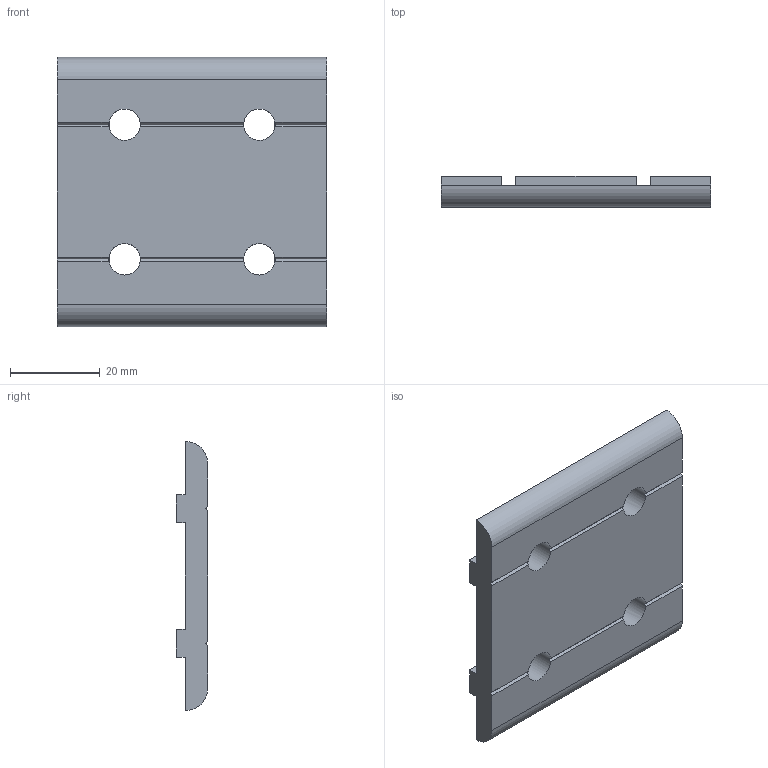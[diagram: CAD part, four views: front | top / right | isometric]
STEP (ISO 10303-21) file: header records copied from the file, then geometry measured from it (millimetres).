
FILE_DESCRIPTION(/* description */ ('Unknown'),/* implementation_level */ '2;1');
FILE_NAME(/* name */ 'AI6060D-H',/* time_stamp */ '2026-09-17T11:42:45+08:00',/* author */ ('Unknown'),/* organization */ ('Unknown'),/* preprocessor_version */ 'ST-DEVELOPER v16.7',/* originating_system */ 'DEX',/* authorisation */ $);
FILE_SCHEMA (('AUTOMOTIVE_DESIGN {1 0 10303 214 3 1 1}'));
Length unit declared in the file: millimetre
Products named in the file (1): AI6060D-H
Bounding box: 60 x 7 x 60 mm (x, y, z)
Volume: 17757.7 mm3; surface area: 8887.6 mm2
Topology: 1 solids, 1 shells, 44 faces, 146 edges, 96 vertices
Faces by surface type: plane 38, cylinder 6
Full cylindrical faces by diameter (mm): 7 x4
Entity records: 1894 total; most frequent: ORIENTED_EDGE 276, CARTESIAN_POINT 275, DIRECTION 272, EDGE_CURVE 138, LINE 94, VECTOR 94, VERTEX_POINT 92, AXIS2_PLACEMENT_3D 89
